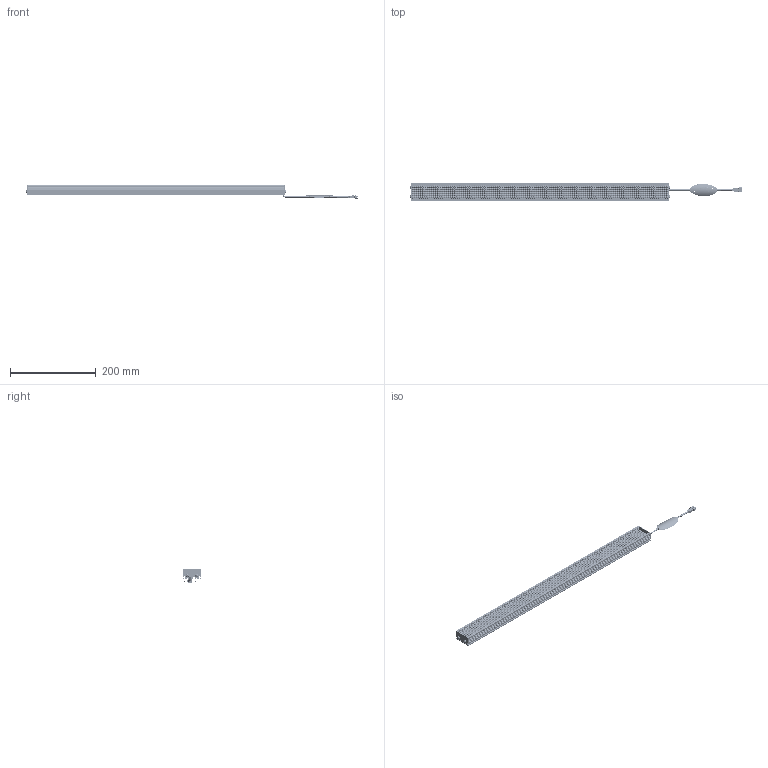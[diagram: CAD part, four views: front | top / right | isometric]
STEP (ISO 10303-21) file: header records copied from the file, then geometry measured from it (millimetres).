
FILE_DESCRIPTION(('STEP AP214'),'1');
FILE_NAME('VBA-60030_DRAWING_3D.step','2023-09-14T01:19:59',(' '),(' '),'Spatial InterOp 3D',' ',' ');
FILE_SCHEMA(('AUTOMOTIVE_DESIGN { 1 0 10303 214 1 1 1 1 }'));
Length unit declared in the file: millimetre
Products named in the file (7): BASE; SIDE PLATE; LED LENS; MXB8146; 3P; CABEL TAG (VS).stp
Assembly tree (21 placements, depth 2):
  (unnamed)
    BASE
    SIDE PLATE  x2
    LED LENS  x12
    MXB8146  x4
    3P
    CABEL TAG (VS).stp
Bounding box: 776 x 41 x 30.5 mm (x, y, z)
Volume: 268850.3 mm3; surface area: 239668.5 mm2
Topology: 22 solids, 22 shells, 4272 faces, 12941 edges, 8769 vertices
Faces by surface type: plane 1444, sphere 1440, cylinder 1368, torus 14, bspline 6
Entity records: 45949 total; most frequent: CARTESIAN_POINT 9989, ORIENTED_EDGE 6106, DIRECTION 5835, EDGE_CURVE 3053, AXIS2_PLACEMENT_3D 2155, VERTEX_POINT 2155, LINE 1525, VECTOR 1525
